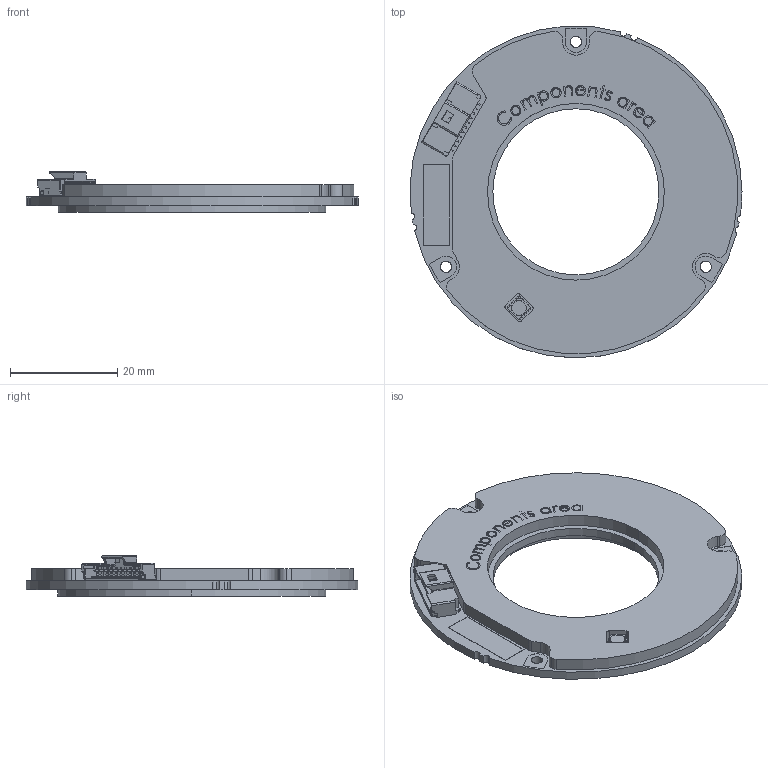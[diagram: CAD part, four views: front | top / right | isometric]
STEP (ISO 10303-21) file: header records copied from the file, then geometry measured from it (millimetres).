
FILE_DESCRIPTION (( 'STEP AP214' ), '1' );
FILE_NAME ('Orbis_BR30_BBM_all_top.STEP', '2025-05-19T13:40:51', ( '' ), ( '' ), 'SwSTEP 2.0', 'SolidWorks 2024', '' );
FILE_SCHEMA (( 'AUTOMOTIVE_DESIGN' ));
Length unit declared in the file: millimetre
Products named in the file (1): Orbis_BR30_BBM_all_top
Bounding box: 61.98 x 61.95 x 7.56 mm (x, y, z)
Volume: 9081.6 mm3; surface area: 6665 mm2
Topology: 1 solids, 1 shells, 2057 faces, 5563 edges, 3548 vertices
Faces by surface type: plane 1507, bspline 250, cylinder 208, cone 92
Entity records: 92216 total; most frequent: CARTESIAN_POINT 24119, ORIENTED_EDGE 11124, DIRECTION 9345, EDGE_CURVE 5562, VECTOR 4381, LINE 4381, VERTEX_POINT 3548, AXIS2_PLACEMENT_3D 2482
